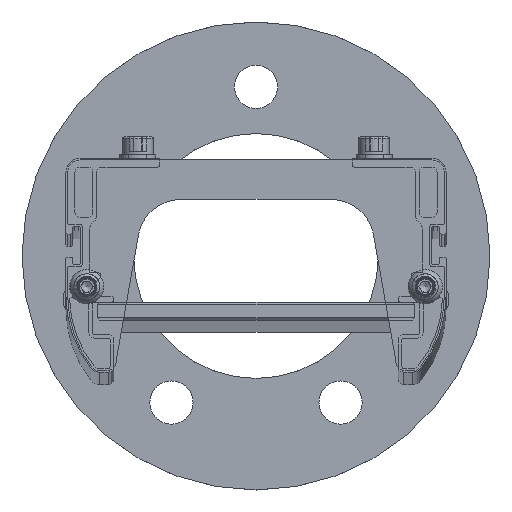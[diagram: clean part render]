
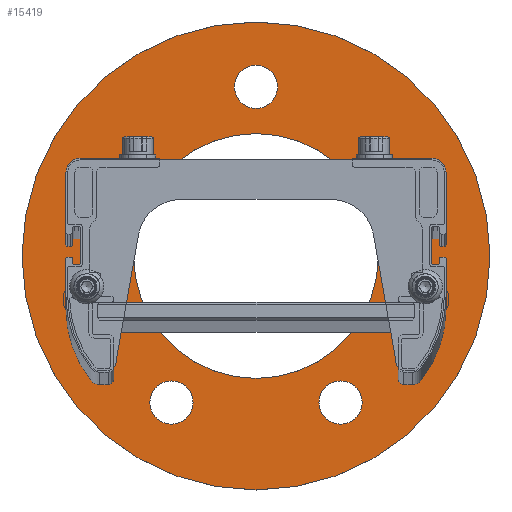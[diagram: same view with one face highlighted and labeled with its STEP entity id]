
A CAD part, top view. The second image highlights one B-rep face of the part: STEP entity #15419.
In plain terms, the highlighted planar face has unit normal (0, 0, 1).
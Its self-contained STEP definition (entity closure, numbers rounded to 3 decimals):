
#8000=FACE_BOUND('',#26976,.T.);
#8001=FACE_BOUND('',#26977,.T.);
#8002=FACE_BOUND('',#26978,.T.);
#8003=FACE_BOUND('',#26979,.T.);
#8004=FACE_BOUND('',#26980,.T.);
#8005=FACE_BOUND('',#26981,.T.);
#8006=FACE_BOUND('',#26982,.T.);
#11018=PLANE('',#104342);
#15419=ADVANCED_FACE('',(#8000,#8001,#8002,#8003,#8004,#8005,#8006),#11018,
 .T.);
#26976=EDGE_LOOP('',(#54926));
#26977=EDGE_LOOP('',(#54927));
#26978=EDGE_LOOP('',(#54928));
#26979=EDGE_LOOP('',(#54929));
#26980=EDGE_LOOP('',(#54930));
#26981=EDGE_LOOP('',(#54931));
#26982=EDGE_LOOP('',(#54932));
#31922=CIRCLE('',#104335,6.);
#31923=CIRCLE('',#104336,6.);
#31924=CIRCLE('',#104337,6.);
#31925=CIRCLE('',#104338,34.);
#31926=CIRCLE('',#104339,3.6);
#31927=CIRCLE('',#104340,3.6);
#31928=CIRCLE('',#104341,65.);
#54926=ORIENTED_EDGE('',*,*,#79496,.F.);
#54927=ORIENTED_EDGE('',*,*,#79497,.F.);
#54928=ORIENTED_EDGE('',*,*,#79498,.F.);
#54929=ORIENTED_EDGE('',*,*,#79499,.T.);
#54930=ORIENTED_EDGE('',*,*,#79500,.T.);
#54931=ORIENTED_EDGE('',*,*,#79501,.T.);
#54932=ORIENTED_EDGE('',*,*,#79502,.F.);
#66895=VERTEX_POINT('',#171104);
#66896=VERTEX_POINT('',#171106);
#66897=VERTEX_POINT('',#171108);
#66898=VERTEX_POINT('',#171110);
#66899=VERTEX_POINT('',#171112);
#66900=VERTEX_POINT('',#171114);
#66901=VERTEX_POINT('',#171116);
#79496=EDGE_CURVE('',#66895,#66895,#31922,.T.);
#79497=EDGE_CURVE('',#66896,#66896,#31923,.T.);
#79498=EDGE_CURVE('',#66897,#66897,#31924,.T.);
#79499=EDGE_CURVE('',#66898,#66898,#31925,.T.);
#79500=EDGE_CURVE('',#66899,#66899,#31926,.T.);
#79501=EDGE_CURVE('',#66900,#66900,#31927,.T.);
#79502=EDGE_CURVE('',#66901,#66901,#31928,.T.);
#104335=AXIS2_PLACEMENT_3D('',#171103,#130011,#130012);
#104336=AXIS2_PLACEMENT_3D('',#171105,#130013,#130014);
#104337=AXIS2_PLACEMENT_3D('',#171107,#130015,#130016);
#104338=AXIS2_PLACEMENT_3D('',#171109,#130017,#130018);
#104339=AXIS2_PLACEMENT_3D('',#171111,#130019,#130020);
#104340=AXIS2_PLACEMENT_3D('',#171113,#130021,#130022);
#104341=AXIS2_PLACEMENT_3D('',#171115,#130023,#130024);
#104342=AXIS2_PLACEMENT_3D('',#171117,#130025,#130026);
#130011=DIRECTION('',(0.,0.,1.));
#130012=DIRECTION('',(-1.,0.,0.));
#130013=DIRECTION('',(0.,0.,1.));
#130014=DIRECTION('',(-1.,0.,0.));
#130015=DIRECTION('',(0.,0.,1.));
#130016=DIRECTION('',(-1.,0.,0.));
#130017=DIRECTION('',(0.,0.,-1.));
#130018=DIRECTION('',(-1.,0.,0.));
#130019=DIRECTION('',(0.,0.,-1.));
#130020=DIRECTION('',(1.,0.,0.));
#130021=DIRECTION('',(0.,0.,-1.));
#130022=DIRECTION('',(1.,0.,0.));
#130023=DIRECTION('',(0.,0.,-1.));
#130024=DIRECTION('',(-1.,0.,0.));
#130025=DIRECTION('',(0.,0.,1.));
#130026=DIRECTION('',(-1.,0.,0.));
#171103=CARTESIAN_POINT('',(293.846,-100.913,-285.));
#171104=CARTESIAN_POINT('',(287.846,-100.913,-285.));
#171105=CARTESIAN_POINT('',(317.346,-13.21,-285.));
#171106=CARTESIAN_POINT('',(311.346,-13.21,-285.));
#171107=CARTESIAN_POINT('',(340.846,-100.913,-285.));
#171108=CARTESIAN_POINT('',(334.846,-100.913,-285.));
#171109=CARTESIAN_POINT('',(317.346,-60.21,-285.));
#171110=CARTESIAN_POINT('',(283.346,-60.21,-285.));
#171111=CARTESIAN_POINT('',(364.346,-72.21,-285.));
#171112=CARTESIAN_POINT('',(367.946,-72.21,-285.));
#171113=CARTESIAN_POINT('',(270.346,-72.21,-285.));
#171114=CARTESIAN_POINT('',(273.946,-72.21,-285.));
#171115=CARTESIAN_POINT('',(317.346,-60.21,-285.));
#171116=CARTESIAN_POINT('',(252.346,-60.21,-285.));
#171117=CARTESIAN_POINT('',(252.346,-60.21,-285.));
